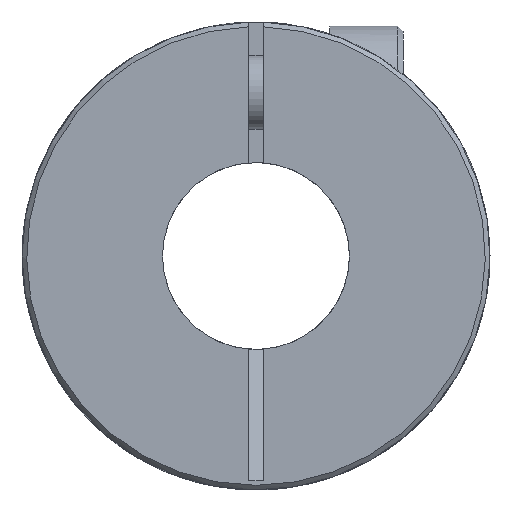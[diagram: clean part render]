
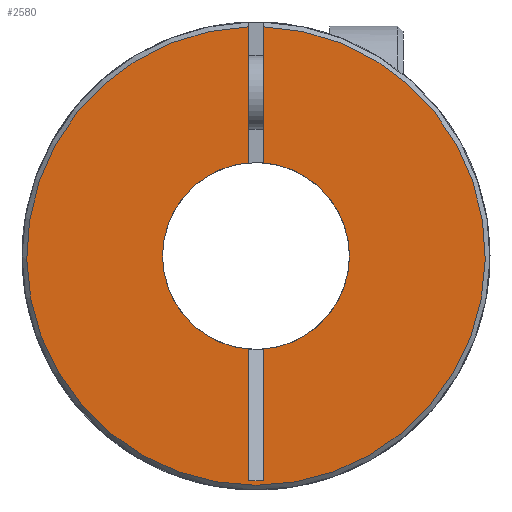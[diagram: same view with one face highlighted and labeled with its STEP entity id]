
A CAD part, front view. The second image highlights one B-rep face of the part: STEP entity #2580.
In plain terms, the highlighted planar face has unit normal (0, -1, 0).
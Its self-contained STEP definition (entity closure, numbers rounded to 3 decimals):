
#1=DIRECTION('',(0.,0.,-1.));
#2=VECTOR('',#1,4.621);
#3=CARTESIAN_POINT('',(-0.25,-10.15,7.786));
#4=LINE('',#3,#2);
#5=CARTESIAN_POINT('',(0.,-10.15,0.));
#6=DIRECTION('',(0.,1.,0.));
#7=DIRECTION('',(-1.,0.,0.));
#8=AXIS2_PLACEMENT_3D('',#5,#6,#7);
#10=CARTESIAN_POINT('',(0.,-10.15,0.));
#11=DIRECTION('',(0.,1.,0.));
#12=DIRECTION('',(-0.079,0.,-0.997));
#13=AXIS2_PLACEMENT_3D('',#10,#11,#12);
#15=DIRECTION('',(0.,0.,-1.));
#16=VECTOR('',#15,4.467);
#17=CARTESIAN_POINT('',(-0.25,-10.15,-3.165));
#18=LINE('',#17,#16);
#19=DIRECTION('',(1.,0.,0.));
#20=VECTOR('',#19,0.5);
#21=CARTESIAN_POINT('',(-0.25,-10.15,-7.632));
#22=LINE('',#21,#20);
#23=DIRECTION('',(0.,0.,-1.));
#24=VECTOR('',#23,4.467);
#25=CARTESIAN_POINT('',(0.25,-10.15,-3.165));
#26=LINE('',#25,#24);
#27=DIRECTION('',(0.,0.,-1.));
#28=VECTOR('',#27,4.621);
#29=CARTESIAN_POINT('',(0.25,-10.15,7.786));
#30=LINE('',#29,#28);
#54=CARTESIAN_POINT('',(0.,-10.15,0.));
#55=DIRECTION('',(0.,1.,0.));
#56=DIRECTION('',(0.079,0.,0.997));
#57=AXIS2_PLACEMENT_3D('',#54,#55,#56);
#1890=CARTESIAN_POINT('',(0.,-10.15,0.));
#1891=DIRECTION('',(0.,-1.,0.));
#1892=DIRECTION('',(-0.032,0.,0.999));
#1893=AXIS2_PLACEMENT_3D('',#1890,#1891,#1892);
#2295=CARTESIAN_POINT('',(-3.175,-10.15,0.));
#2296=VERTEX_POINT('',#2295);
#2372=CARTESIAN_POINT('',(-0.25,-10.15,-7.632));
#2374=VERTEX_POINT('',#2372);
#2376=CARTESIAN_POINT('',(0.25,-10.15,-7.632));
#2378=VERTEX_POINT('',#2376);
#2425=CARTESIAN_POINT('',(-0.25,-10.15,7.786));
#2426=CARTESIAN_POINT('',(-0.25,-10.15,3.165));
#2427=VERTEX_POINT('',#2425);
#2428=VERTEX_POINT('',#2426);
#2429=CARTESIAN_POINT('',(-0.25,-10.15,-3.165));
#2430=VERTEX_POINT('',#2429);
#2431=CARTESIAN_POINT('',(0.25,-10.15,7.786));
#2432=CARTESIAN_POINT('',(0.25,-10.15,3.165));
#2433=VERTEX_POINT('',#2431);
#2434=VERTEX_POINT('',#2432);
#2435=CARTESIAN_POINT('',(0.25,-10.15,-3.165));
#2436=VERTEX_POINT('',#2435);
#2555=CARTESIAN_POINT('',(0.,-10.15,0.));
#2556=DIRECTION('',(0.,1.,0.));
#2557=DIRECTION('',(1.,0.,0.));
#2558=AXIS2_PLACEMENT_3D('',#2555,#2556,#2557);
#2559=PLANE('',#2558);
#2561=ORIENTED_EDGE('',*,*,#2560,.T.);
#2563=ORIENTED_EDGE('',*,*,#2562,.F.);
#2565=ORIENTED_EDGE('',*,*,#2564,.F.);
#2567=ORIENTED_EDGE('',*,*,#2566,.T.);
#2569=ORIENTED_EDGE('',*,*,#2568,.T.);
#2571=ORIENTED_EDGE('',*,*,#2570,.F.);
#2573=ORIENTED_EDGE('',*,*,#2572,.F.);
#2575=ORIENTED_EDGE('',*,*,#2574,.F.);
#2577=ORIENTED_EDGE('',*,*,#2576,.F.);
#2578=EDGE_LOOP('',(#2561,#2563,#2565,#2567,#2569,#2571,#2573,#2575,#2577));
#2579=FACE_OUTER_BOUND('',#2578,.F.);
#2580=ADVANCED_FACE('',(#2579),#2559,.F.);
#9=CIRCLE('',#8,3.175);
#14=CIRCLE('',#13,3.175);
#58=CIRCLE('',#57,3.175);
#1894=CIRCLE('',#1893,7.79);
#2560=EDGE_CURVE('',#2427,#2428,#4,.T.);
#2562=EDGE_CURVE('',#2296,#2428,#9,.T.);
#2564=EDGE_CURVE('',#2430,#2296,#14,.T.);
#2566=EDGE_CURVE('',#2430,#2374,#18,.T.);
#2568=EDGE_CURVE('',#2374,#2378,#22,.T.);
#2570=EDGE_CURVE('',#2436,#2378,#26,.T.);
#2572=EDGE_CURVE('',#2434,#2436,#58,.T.);
#2574=EDGE_CURVE('',#2433,#2434,#30,.T.);
#2576=EDGE_CURVE('',#2427,#2433,#1894,.T.);
